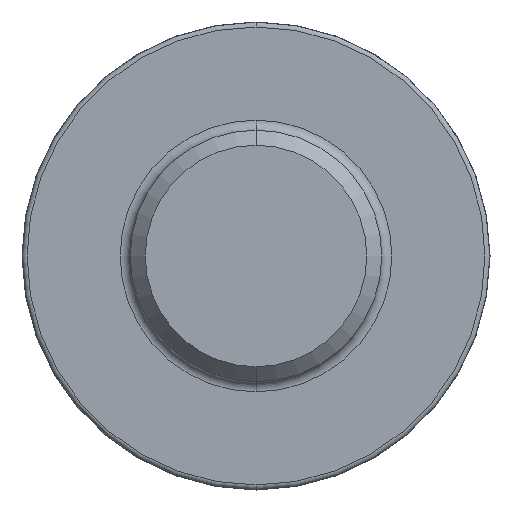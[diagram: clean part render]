
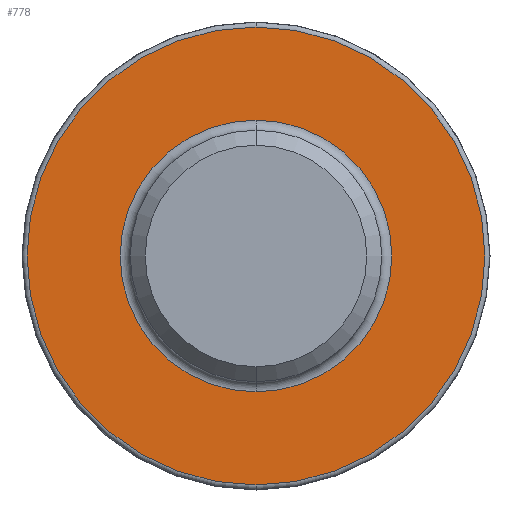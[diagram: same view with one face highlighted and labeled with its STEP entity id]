
A CAD part, front view. The second image highlights one B-rep face of the part: STEP entity #778.
In plain terms, the highlighted planar face has unit normal (0, -1, 0).
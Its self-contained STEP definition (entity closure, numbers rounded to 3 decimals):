
#4 = FACE_OUTER_BOUND ( 'NONE', #722, .T. ) ;
#18 = CARTESIAN_POINT ( 'NONE',  ( 0., -2.7, 4.55 ) ) ;
#22 = EDGE_CURVE ( 'NONE', #144, #76, #631, .T. ) ;
#57 = DIRECTION ( 'NONE',  ( 0., 0., 1. ) ) ;
#59 = CIRCLE ( 'NONE', #85, 4.55 ) ;
#72 = FACE_BOUND ( 'NONE', #781, .T. ) ;
#76 = VERTEX_POINT ( 'NONE', #357 ) ;
#85 = AXIS2_PLACEMENT_3D ( 'NONE', #792, #721, #786 ) ;
#125 = CARTESIAN_POINT ( 'NONE',  ( 0., -2.7, 0. ) ) ;
#144 = VERTEX_POINT ( 'NONE', #630 ) ;
#201 = EDGE_CURVE ( 'NONE', #76, #144, #728, .T. ) ;
#238 = CARTESIAN_POINT ( 'NONE',  ( 0., -2.7, 0. ) ) ;
#244 = AXIS2_PLACEMENT_3D ( 'NONE', #238, #381, #248 ) ;
#247 = EDGE_CURVE ( 'NONE', #805, #566, #59, .T. ) ;
#248 = DIRECTION ( 'NONE',  ( 0., 0., 1. ) ) ;
#268 = CARTESIAN_POINT ( 'NONE',  ( 0., -2.7, 0. ) ) ;
#284 = AXIS2_PLACEMENT_3D ( 'NONE', #268, #702, #431 ) ;
#310 = DIRECTION ( 'NONE',  ( 0., 1., 0. ) ) ;
#317 = ORIENTED_EDGE ( 'NONE', *, *, #201, .T. ) ;
#340 = CARTESIAN_POINT ( 'NONE',  ( 2.5, -2.7, 0. ) ) ;
#353 = ORIENTED_EDGE ( 'NONE', *, *, #22, .T. ) ;
#357 = CARTESIAN_POINT ( 'NONE',  ( 0., -2.7, -2.7 ) ) ;
#381 = DIRECTION ( 'NONE',  ( 0., -1., 0. ) ) ;
#397 = DIRECTION ( 'NONE',  ( 0., 1., 0. ) ) ;
#431 = DIRECTION ( 'NONE',  ( 0., 0., 1. ) ) ;
#456 = PLANE ( 'NONE',  #475 ) ;
#458 = DIRECTION ( 'NONE',  ( 0., 0., 1. ) ) ;
#475 = AXIS2_PLACEMENT_3D ( 'NONE', #340, #397, #458 ) ;
#566 = VERTEX_POINT ( 'NONE', #18 ) ;
#630 = CARTESIAN_POINT ( 'NONE',  ( 0., -2.7, 2.7 ) ) ;
#631 = CIRCLE ( 'NONE', #284, 2.7 ) ;
#666 = EDGE_CURVE ( 'NONE', #566, #805, #847, .T. ) ;
#702 = DIRECTION ( 'NONE',  ( 0., 1., 0. ) ) ;
#716 = AXIS2_PLACEMENT_3D ( 'NONE', #125, #310, #57 ) ;
#721 = DIRECTION ( 'NONE',  ( 0., -1., 0. ) ) ;
#722 = EDGE_LOOP ( 'NONE', ( #777, #736 ) ) ;
#728 = CIRCLE ( 'NONE', #716, 2.7 ) ;
#736 = ORIENTED_EDGE ( 'NONE', *, *, #247, .T. ) ;
#777 = ORIENTED_EDGE ( 'NONE', *, *, #666, .T. ) ;
#778 = ADVANCED_FACE ( 'NONE', ( #72, #4 ), #456, .F. ) ;
#781 = EDGE_LOOP ( 'NONE', ( #353, #317 ) ) ;
#786 = DIRECTION ( 'NONE',  ( 0., 0., 1. ) ) ;
#792 = CARTESIAN_POINT ( 'NONE',  ( 0., -2.7, 0. ) ) ;
#793 = CARTESIAN_POINT ( 'NONE',  ( 0., -2.7, -4.55 ) ) ;
#805 = VERTEX_POINT ( 'NONE', #793 ) ;
#847 = CIRCLE ( 'NONE', #244, 4.55 ) ;
